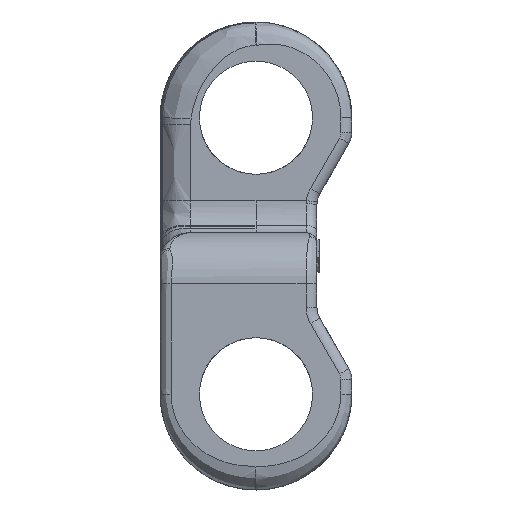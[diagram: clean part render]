
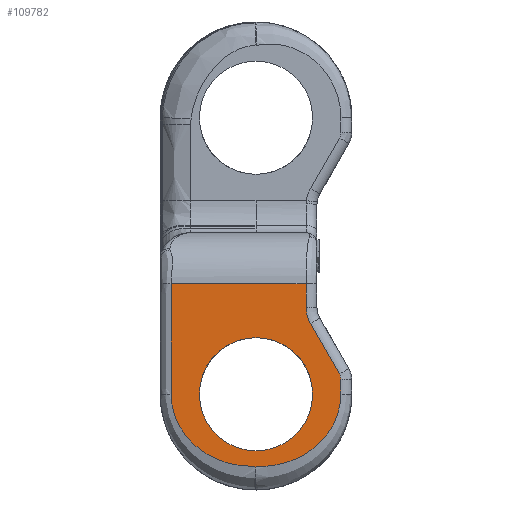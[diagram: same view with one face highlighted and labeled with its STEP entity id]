
A CAD part, left-side view. The second image highlights one B-rep face of the part: STEP entity #109782.
In plain terms, the highlighted planar face has unit normal (-1, 0, 0).
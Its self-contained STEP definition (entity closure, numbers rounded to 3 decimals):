
#25107=CARTESIAN_POINT('',(-76.025,-2.3,
-1.275));
#25134=DIRECTION('',(0.,0.,1.));
#25135=VECTOR('',#25134,1.085);
#25136=CARTESIAN_POINT('',(-76.025,-2.3,
-2.36));
#25137=LINE('',#25136,#25135);
#27297=DIRECTION('',(0.,1.,0.));
#27298=VECTOR('',#27297,6.2);
#27299=CARTESIAN_POINT('',(-76.025,-2.3,
-1.275));
#27300=LINE('',#27299,#27298);
#27319=CARTESIAN_POINT('',(-76.025,-3.9,
-6.35));
#27320=CARTESIAN_POINT('',(-76.025,-3.9,
-6.841));
#27321=CARTESIAN_POINT('',(-76.025,-3.643,
-7.819));
#27322=CARTESIAN_POINT('',(-76.025,-2.672,
-8.938));
#27323=CARTESIAN_POINT('',(-76.025,-1.381,
-9.565));
#27324=CARTESIAN_POINT('',(-76.025,-0.459,
-9.675));
#27325=CARTESIAN_POINT('',(-76.025,0.,-9.675));
#27327=CARTESIAN_POINT('',(-76.025,0.,-9.675));
#27328=CARTESIAN_POINT('',(-76.025,0.457,
-9.675));
#27329=CARTESIAN_POINT('',(-76.025,1.382,
-9.565));
#27330=CARTESIAN_POINT('',(-76.025,2.672,-8.938));
#27331=CARTESIAN_POINT('',(-76.025,3.643,-7.819));
#27332=CARTESIAN_POINT('',(-76.025,3.9,-6.841));
#27333=CARTESIAN_POINT('',(-76.025,3.9,
-6.35));
#27335=CARTESIAN_POINT('',(-76.025,-3.8,-2.36));
#27336=DIRECTION('',(-1.,0.,0.));
#27337=DIRECTION('',(0.,1.,0.));
#27338=AXIS2_PLACEMENT_3D('',#27335,#27336,#27337);
#27340=DIRECTION('',(0.,-0.5,-0.866));
#27341=VECTOR('',#27340,2.664);
#27342=CARTESIAN_POINT('',(-76.025,-2.501,-3.11));
#27343=LINE('',#27342,#27341);
#27344=CARTESIAN_POINT('',(-76.025,-3.4,-5.667));
#27345=DIRECTION('',(1.,0.,0.));
#27346=DIRECTION('',(0.,-0.866,0.5));
#27347=AXIS2_PLACEMENT_3D('',#27344,#27345,#27346);
#27349=CARTESIAN_POINT('',(-76.025,0.,-6.35));
#27350=DIRECTION('',(-1.,0.,0.));
#27351=DIRECTION('',(0.,-1.,0.));
#27352=AXIS2_PLACEMENT_3D('',#27349,#27350,#27351);
#27354=CARTESIAN_POINT('',(-76.025,0.,-6.35));
#27355=DIRECTION('',(-1.,0.,0.));
#27356=DIRECTION('',(0.,1.,0.));
#27357=AXIS2_PLACEMENT_3D('',#27354,#27355,#27356);
#27418=DIRECTION('',(0.,0.,1.));
#27419=VECTOR('',#27418,0.683);
#27420=CARTESIAN_POINT('',(-76.025,-3.9,
-6.35));
#27421=LINE('',#27420,#27419);
#30088=CARTESIAN_POINT('',(-76.025,3.9,-1.275));
#30103=CARTESIAN_POINT('',(-76.025,3.9,-1.275));
#30104=CARTESIAN_POINT('',(-76.025,3.898,
-2.967));
#30105=CARTESIAN_POINT('',(-76.025,3.902,
-4.658));
#30106=CARTESIAN_POINT('',(-76.025,3.9,
-6.35));
#50814=VERTEX_POINT('',#25107);
#50815=CARTESIAN_POINT('',(-76.025,-2.3,-2.36));
#50816=VERTEX_POINT('',#50815);
#50817=CARTESIAN_POINT('',(-76.025,-2.501,-3.11));
#50818=VERTEX_POINT('',#50817);
#50821=CARTESIAN_POINT('',(-76.025,-3.833,-5.417));
#50822=VERTEX_POINT('',#50821);
#51447=CARTESIAN_POINT('',(-76.025,-2.6,-6.35));
#51448=VERTEX_POINT('',#51447);
#51449=CARTESIAN_POINT('',(-76.025,2.6,-6.35));
#51450=VERTEX_POINT('',#51449);
#51806=VERTEX_POINT('',#30088);
#51809=VERTEX_POINT('',#27319);
#51810=VERTEX_POINT('',#27325);
#51811=VERTEX_POINT('',#27333);
#51812=CARTESIAN_POINT('',(-76.025,-3.9,-5.667));
#51813=VERTEX_POINT('',#51812);
#109754=CARTESIAN_POINT('',(-76.025,0.,0.));
#109755=DIRECTION('',(-1.,0.,0.));
#109756=DIRECTION('',(0.,1.,0.));
#109757=AXIS2_PLACEMENT_3D('',#109754,#109755,#109756);
#109758=PLANE('',#109757);
#109760=ORIENTED_EDGE('',*,*,#109759,.T.);
#109762=ORIENTED_EDGE('',*,*,#109761,.T.);
#109764=ORIENTED_EDGE('',*,*,#109763,.F.);
#109765=ORIENTED_EDGE('',*,*,#109741,.F.);
#109766=ORIENTED_EDGE('',*,*,#105395,.F.);
#109767=ORIENTED_EDGE('',*,*,#105410,.T.);
#109769=ORIENTED_EDGE('',*,*,#109768,.T.);
#109771=ORIENTED_EDGE('',*,*,#109770,.T.);
#109773=ORIENTED_EDGE('',*,*,#109772,.F.);
#109774=EDGE_LOOP('',(#109760,#109762,#109764,#109765,#109766,#109767,#109769,
#109771,#109773));
#109775=FACE_OUTER_BOUND('',#109774,.F.);
#109777=ORIENTED_EDGE('',*,*,#109776,.T.);
#109779=ORIENTED_EDGE('',*,*,#109778,.T.);
#109780=EDGE_LOOP('',(#109777,#109779));
#109781=FACE_BOUND('',#109780,.F.);
#109782=ADVANCED_FACE('',(#109775,#109781),#109758,.T.);
#27326=B_SPLINE_CURVE_WITH_KNOTS('',3,(#27319,#27320,#27321,#27322,#27323,
#27324,#27325),.UNSPECIFIED.,.F.,.F.,(4,1,1,1,4),(0.,0.25,0.5,0.75,
1.),.UNSPECIFIED.);
#27334=B_SPLINE_CURVE_WITH_KNOTS('',3,(#27327,#27328,#27329,#27330,#27331,
#27332,#27333),.UNSPECIFIED.,.F.,.F.,(4,1,1,1,4),(0.,0.25,0.5,0.75,
1.),.UNSPECIFIED.);
#27339=CIRCLE('',#27338,1.5);
#27348=CIRCLE('',#27347,0.5);
#27353=CIRCLE('',#27352,2.6);
#27358=CIRCLE('',#27357,2.6);
#30107=B_SPLINE_CURVE_WITH_KNOTS('',3,(#30103,#30104,#30105,#30106),
.UNSPECIFIED.,.F.,.F.,(4,4),(0.,1.),.UNSPECIFIED.);
#105395=EDGE_CURVE('',#50816,#50814,#25137,.T.);
#105410=EDGE_CURVE('',#50816,#50818,#27339,.T.);
#109741=EDGE_CURVE('',#50814,#51806,#27300,.T.);
#109759=EDGE_CURVE('',#51809,#51810,#27326,.T.);
#109761=EDGE_CURVE('',#51810,#51811,#27334,.T.);
#109763=EDGE_CURVE('',#51806,#51811,#30107,.T.);
#109768=EDGE_CURVE('',#50818,#50822,#27343,.T.);
#109770=EDGE_CURVE('',#50822,#51813,#27348,.T.);
#109772=EDGE_CURVE('',#51809,#51813,#27421,.T.);
#109776=EDGE_CURVE('',#51448,#51450,#27353,.T.);
#109778=EDGE_CURVE('',#51450,#51448,#27358,.T.);
